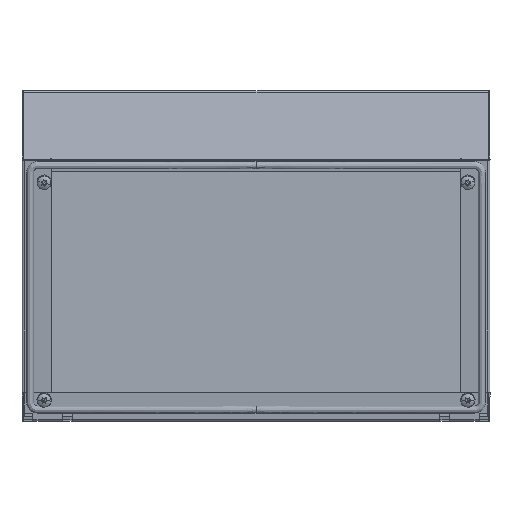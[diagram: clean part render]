
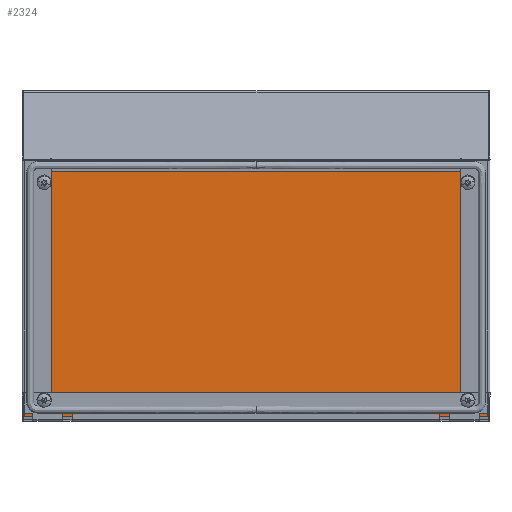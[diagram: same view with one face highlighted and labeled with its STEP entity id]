
A CAD part, front view. The second image highlights one B-rep face of the part: STEP entity #2324.
In plain terms, the highlighted planar face has unit normal (0, -1, 0).
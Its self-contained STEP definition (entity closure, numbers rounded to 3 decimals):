
#13 = LINE ( 'NONE', #4399, #6392 ) ;
#155 = AXIS2_PLACEMENT_3D ( 'NONE', #2179, #6545, #10017 ) ;
#482 = CARTESIAN_POINT ( 'NONE',  ( -198.2, -1.2, 125. ) ) ;
#1032 = DIRECTION ( 'NONE',  ( 0., 0., -1. ) ) ;
#1037 = LINE ( 'NONE', #14386, #1069 ) ;
#1069 = VECTOR ( 'NONE', #7656, 1000. ) ;
#1134 = VERTEX_POINT ( 'NONE', #9817 ) ;
#1234 = VERTEX_POINT ( 'NONE', #7912 ) ;
#1390 = CARTESIAN_POINT ( 'NONE',  ( 198.2, -1.2, 123.154 ) ) ;
#1819 = EDGE_CURVE ( 'NONE', #1990, #1234, #1037, .T. ) ;
#1990 = VERTEX_POINT ( 'NONE', #13652 ) ;
#2179 = CARTESIAN_POINT ( 'NONE',  ( 0., -1.2, 0. ) ) ;
#2324 = ADVANCED_FACE ( 'NONE', ( #12224 ), #4294, .F. ) ;
#3686 = ORIENTED_EDGE ( 'NONE', *, *, #4016, .F. ) ;
#4016 = EDGE_CURVE ( 'NONE', #1234, #1134, #5935, .T. ) ;
#4294 = PLANE ( 'NONE',  #155 ) ;
#4399 = CARTESIAN_POINT ( 'NONE',  ( 198.2, -1.2, 125. ) ) ;
#4908 = EDGE_CURVE ( 'NONE', #1134, #6208, #7060, .T. ) ;
#5935 = LINE ( 'NONE', #482, #9500 ) ;
#6143 = DIRECTION ( 'NONE',  ( 0., 0., 1. ) ) ;
#6208 = VERTEX_POINT ( 'NONE', #1390 ) ;
#6392 = VECTOR ( 'NONE', #1032, 1000. ) ;
#6545 = DIRECTION ( 'NONE',  ( 0., 1., 0. ) ) ;
#7060 = LINE ( 'NONE', #13719, #12202 ) ;
#7254 = ORIENTED_EDGE ( 'NONE', *, *, #10136, .F. ) ;
#7656 = DIRECTION ( 'NONE',  ( -1., 0., 0. ) ) ;
#7912 = CARTESIAN_POINT ( 'NONE',  ( -198.2, -1.2, -123.253 ) ) ;
#9500 = VECTOR ( 'NONE', #6143, 1000. ) ;
#9817 = CARTESIAN_POINT ( 'NONE',  ( -198.2, -1.2, 123.154 ) ) ;
#10017 = DIRECTION ( 'NONE',  ( 0., 0., 1. ) ) ;
#10136 = EDGE_CURVE ( 'NONE', #6208, #1990, #13, .T. ) ;
#10279 = ORIENTED_EDGE ( 'NONE', *, *, #1819, .F. ) ;
#11388 = EDGE_LOOP ( 'NONE', ( #13831, #3686, #10279, #7254 ) ) ;
#12202 = VECTOR ( 'NONE', #12542, 1000. ) ;
#12224 = FACE_OUTER_BOUND ( 'NONE', #11388, .T. ) ;
#12542 = DIRECTION ( 'NONE',  ( 1., 0., 0. ) ) ;
#13652 = CARTESIAN_POINT ( 'NONE',  ( 198.2, -1.2, -123.253 ) ) ;
#13719 = CARTESIAN_POINT ( 'NONE',  ( -198.2, -1.2, 123.154 ) ) ;
#13831 = ORIENTED_EDGE ( 'NONE', *, *, #4908, .F. ) ;
#14386 = CARTESIAN_POINT ( 'NONE',  ( 198.2, -1.2, -123.253 ) ) ;
